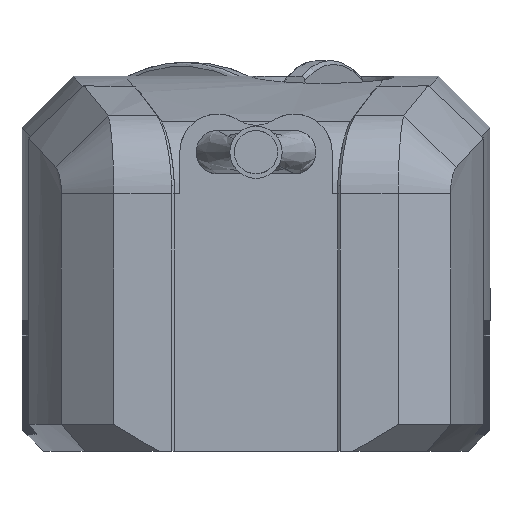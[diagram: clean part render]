
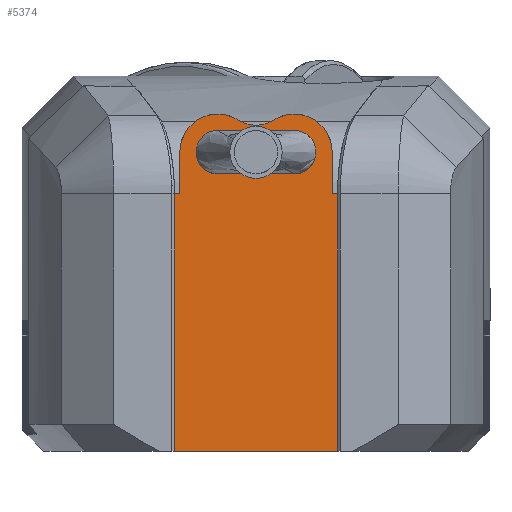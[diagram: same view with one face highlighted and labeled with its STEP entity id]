
A CAD part, front view. The second image highlights one B-rep face of the part: STEP entity #5374.
In plain terms, the highlighted planar face has unit normal (0, -1, 0).
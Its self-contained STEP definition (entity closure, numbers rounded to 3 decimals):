
#72 = VECTOR ( 'NONE', #2288, 1000. ) ;
#159 = ORIENTED_EDGE ( 'NONE', *, *, #5967, .F. ) ;
#255 = VECTOR ( 'NONE', #13931, 1000. ) ;
#313 = VERTEX_POINT ( 'NONE', #9324 ) ;
#504 = CARTESIAN_POINT ( 'NONE',  ( 44., -64., 0. ) ) ;
#577 = CARTESIAN_POINT ( 'NONE',  ( 7., -64., 55. ) ) ;
#873 = CARTESIAN_POINT ( 'NONE',  ( 14., -64., 47.341 ) ) ;
#914 = CARTESIAN_POINT ( 'NONE',  ( -14., -64., 55. ) ) ;
#1055 = CARTESIAN_POINT ( 'NONE',  ( -44., -64., 47.341 ) ) ;
#1127 = CIRCLE ( 'NONE', #11128, 7. ) ;
#1200 = LINE ( 'NONE', #1055, #15315 ) ;
#1284 = CIRCLE ( 'NONE', #12761, 5.95 ) ;
#1679 = DIRECTION ( 'NONE',  ( 0., 1., 0. ) ) ;
#1739 = EDGE_CURVE ( 'NONE', #5245, #9211, #17204, .T. ) ;
#1965 = VERTEX_POINT ( 'NONE', #2153 ) ;
#2153 = CARTESIAN_POINT ( 'NONE',  ( -3.216, -64., 60.889 ) ) ;
#2288 = DIRECTION ( 'NONE',  ( 0., 0., 1. ) ) ;
#2375 = DIRECTION ( 'NONE',  ( 1., 0., 0. ) ) ;
#2645 = DIRECTION ( 'NONE',  ( 0., 0., -1. ) ) ;
#3343 = DIRECTION ( 'NONE',  ( 0., -1., 0. ) ) ;
#3376 = EDGE_CURVE ( 'NONE', #313, #17837, #1127, .T. ) ;
#3404 = EDGE_CURVE ( 'NONE', #16230, #11244, #15020, .T. ) ;
#3432 = CARTESIAN_POINT ( 'NONE',  ( -15., -64., 47.341 ) ) ;
#3497 = CARTESIAN_POINT ( 'NONE',  ( 7., -64., 62. ) ) ;
#3565 = EDGE_CURVE ( 'NONE', #8773, #8320, #16331, .T. ) ;
#3675 = FACE_OUTER_BOUND ( 'NONE', #9841, .T. ) ;
#3718 = DIRECTION ( 'NONE',  ( 0., 1., 0. ) ) ;
#3763 = CIRCLE ( 'NONE', #11531, 7. ) ;
#3791 = CARTESIAN_POINT ( 'NONE',  ( -7., -64., 55. ) ) ;
#3796 = LINE ( 'NONE', #7617, #16617 ) ;
#3968 = DIRECTION ( 'NONE',  ( 0., -1., 0. ) ) ;
#4394 = EDGE_CURVE ( 'NONE', #8320, #8773, #10463, .T. ) ;
#4854 = ORIENTED_EDGE ( 'NONE', *, *, #3565, .F. ) ;
#4988 = CARTESIAN_POINT ( 'NONE',  ( 7., -64., 55. ) ) ;
#5052 = VERTEX_POINT ( 'NONE', #17005 ) ;
#5104 = ORIENTED_EDGE ( 'NONE', *, *, #6723, .T. ) ;
#5207 = CARTESIAN_POINT ( 'NONE',  ( -7., -64., 55. ) ) ;
#5245 = VERTEX_POINT ( 'NONE', #13244 ) ;
#5374 = ADVANCED_FACE ( 'NONE', ( #3675, #17602, #18037 ), #7004, .F. ) ;
#5431 = DIRECTION ( 'NONE',  ( 0., 0., -1. ) ) ;
#5503 = ORIENTED_EDGE ( 'NONE', *, *, #16062, .T. ) ;
#5620 = ORIENTED_EDGE ( 'NONE', *, *, #3404, .F. ) ;
#5784 = DIRECTION ( 'NONE',  ( 0., 0., -1. ) ) ;
#5850 = CARTESIAN_POINT ( 'NONE',  ( 7., -64., 55. ) ) ;
#5934 = ORIENTED_EDGE ( 'NONE', *, *, #7829, .F. ) ;
#5967 = EDGE_CURVE ( 'NONE', #1965, #5052, #1284, .T. ) ;
#6186 = DIRECTION ( 'NONE',  ( 0., 0., -1. ) ) ;
#6211 = CARTESIAN_POINT ( 'NONE',  ( -15., -64., 0. ) ) ;
#6338 = CARTESIAN_POINT ( 'NONE',  ( -15., -64., 70. ) ) ;
#6617 = CARTESIAN_POINT ( 'NONE',  ( 14., -64., 55. ) ) ;
#6723 = EDGE_CURVE ( 'NONE', #14572, #11244, #11662, .T. ) ;
#6885 = ORIENTED_EDGE ( 'NONE', *, *, #7992, .T. ) ;
#6972 = LINE ( 'NONE', #6338, #12420 ) ;
#7004 = PLANE ( 'NONE',  #16936 ) ;
#7056 = CARTESIAN_POINT ( 'NONE',  ( -7., -64., 59. ) ) ;
#7193 = DIRECTION ( 'NONE',  ( 0., 0., 1. ) ) ;
#7305 = AXIS2_PLACEMENT_3D ( 'NONE', #9312, #3718, #10736 ) ;
#7337 = ORIENTED_EDGE ( 'NONE', *, *, #10829, .T. ) ;
#7617 = CARTESIAN_POINT ( 'NONE',  ( 44., -64., 47.341 ) ) ;
#7717 = CIRCLE ( 'NONE', #16271, 4. ) ;
#7829 = EDGE_CURVE ( 'NONE', #14131, #16230, #1200, .T. ) ;
#7885 = ORIENTED_EDGE ( 'NONE', *, *, #3376, .F. ) ;
#7974 = DIRECTION ( 'NONE',  ( 0., 1., 0. ) ) ;
#7992 = EDGE_CURVE ( 'NONE', #9211, #5245, #7717, .T. ) ;
#8181 = DIRECTION ( 'NONE',  ( 0., 1., 0. ) ) ;
#8320 = VERTEX_POINT ( 'NONE', #13357 ) ;
#8376 = DIRECTION ( 'NONE',  ( 0., 0., -1. ) ) ;
#8525 = ORIENTED_EDGE ( 'NONE', *, *, #1739, .T. ) ;
#8553 = EDGE_CURVE ( 'NONE', #17349, #13247, #8803, .T. ) ;
#8773 = VERTEX_POINT ( 'NONE', #10445 ) ;
#8803 = CIRCLE ( 'NONE', #11521, 7. ) ;
#9211 = VERTEX_POINT ( 'NONE', #7056 ) ;
#9312 = CARTESIAN_POINT ( 'NONE',  ( -7., -64., 55. ) ) ;
#9324 = CARTESIAN_POINT ( 'NONE',  ( -14., -64., 55. ) ) ;
#9679 = VECTOR ( 'NONE', #14520, 1000. ) ;
#9841 = EDGE_LOOP ( 'NONE', ( #5104, #5620, #5934, #7337, #15375, #5503, #159, #13626, #7885, #12933, #12488, #12735 ) ) ;
#10006 = CARTESIAN_POINT ( 'NONE',  ( 44., -64., 70. ) ) ;
#10445 = CARTESIAN_POINT ( 'NONE',  ( 7., -64., 51. ) ) ;
#10463 = CIRCLE ( 'NONE', #11946, 4. ) ;
#10537 = AXIS2_PLACEMENT_3D ( 'NONE', #577, #3343, #6186 ) ;
#10555 = CIRCLE ( 'NONE', #7305, 7. ) ;
#10736 = DIRECTION ( 'NONE',  ( 0., 0., -1. ) ) ;
#10829 = EDGE_CURVE ( 'NONE', #14131, #17349, #16938, .T. ) ;
#10966 = DIRECTION ( 'NONE',  ( 0., 0., -1. ) ) ;
#11098 = DIRECTION ( 'NONE',  ( 0., 1., 0. ) ) ;
#11123 = CARTESIAN_POINT ( 'NONE',  ( 15., -64., 0. ) ) ;
#11128 = AXIS2_PLACEMENT_3D ( 'NONE', #5207, #11098, #8376 ) ;
#11244 = VERTEX_POINT ( 'NONE', #11123 ) ;
#11448 = CARTESIAN_POINT ( 'NONE',  ( -14., -64., 47.341 ) ) ;
#11521 = AXIS2_PLACEMENT_3D ( 'NONE', #13885, #3968, #2645 ) ;
#11531 = AXIS2_PLACEMENT_3D ( 'NONE', #5850, #16862, #5784 ) ;
#11662 = LINE ( 'NONE', #504, #9679 ) ;
#11946 = AXIS2_PLACEMENT_3D ( 'NONE', #4988, #13392, #17420 ) ;
#12221 = DIRECTION ( 'NONE',  ( 0., 0., 1. ) ) ;
#12420 = VECTOR ( 'NONE', #13403, 1000. ) ;
#12488 = ORIENTED_EDGE ( 'NONE', *, *, #15169, .T. ) ;
#12517 = DIRECTION ( 'NONE',  ( 0., -1., 0. ) ) ;
#12599 = VERTEX_POINT ( 'NONE', #11448 ) ;
#12735 = ORIENTED_EDGE ( 'NONE', *, *, #17624, .T. ) ;
#12761 = AXIS2_PLACEMENT_3D ( 'NONE', #18005, #12517, #10966 ) ;
#12785 = EDGE_LOOP ( 'NONE', ( #14175, #4854 ) ) ;
#12933 = ORIENTED_EDGE ( 'NONE', *, *, #15766, .F. ) ;
#13159 = DIRECTION ( 'NONE',  ( -1., 0., 0. ) ) ;
#13244 = CARTESIAN_POINT ( 'NONE',  ( -7., -64., 51. ) ) ;
#13247 = VERTEX_POINT ( 'NONE', #3497 ) ;
#13357 = CARTESIAN_POINT ( 'NONE',  ( 7., -64., 59. ) ) ;
#13392 = DIRECTION ( 'NONE',  ( 0., -1., 0. ) ) ;
#13403 = DIRECTION ( 'NONE',  ( 0., 0., -1. ) ) ;
#13461 = CARTESIAN_POINT ( 'NONE',  ( 15., -64., 47.341 ) ) ;
#13527 = DIRECTION ( 'NONE',  ( 0., 0., -1. ) ) ;
#13626 = ORIENTED_EDGE ( 'NONE', *, *, #15192, .F. ) ;
#13682 = VECTOR ( 'NONE', #12221, 1000. ) ;
#13885 = CARTESIAN_POINT ( 'NONE',  ( 7., -64., 55. ) ) ;
#13931 = DIRECTION ( 'NONE',  ( 0., 0., -1. ) ) ;
#14131 = VERTEX_POINT ( 'NONE', #873 ) ;
#14175 = ORIENTED_EDGE ( 'NONE', *, *, #4394, .F. ) ;
#14467 = AXIS2_PLACEMENT_3D ( 'NONE', #3791, #7974, #13527 ) ;
#14520 = DIRECTION ( 'NONE',  ( 1., 0., 0. ) ) ;
#14572 = VERTEX_POINT ( 'NONE', #6211 ) ;
#15020 = LINE ( 'NONE', #17644, #255 ) ;
#15148 = VERTEX_POINT ( 'NONE', #3432 ) ;
#15169 = EDGE_CURVE ( 'NONE', #12599, #15148, #3796, .T. ) ;
#15192 = EDGE_CURVE ( 'NONE', #17837, #1965, #10555, .T. ) ;
#15242 = CARTESIAN_POINT ( 'NONE',  ( -7., -64., 55. ) ) ;
#15315 = VECTOR ( 'NONE', #2375, 1000. ) ;
#15375 = ORIENTED_EDGE ( 'NONE', *, *, #8553, .T. ) ;
#15766 = EDGE_CURVE ( 'NONE', #12599, #313, #16594, .T. ) ;
#16062 = EDGE_CURVE ( 'NONE', #13247, #5052, #3763, .T. ) ;
#16230 = VERTEX_POINT ( 'NONE', #13461 ) ;
#16271 = AXIS2_PLACEMENT_3D ( 'NONE', #15242, #8181, #5431 ) ;
#16331 = CIRCLE ( 'NONE', #10537, 4. ) ;
#16594 = LINE ( 'NONE', #914, #72 ) ;
#16617 = VECTOR ( 'NONE', #13159, 1000. ) ;
#16862 = DIRECTION ( 'NONE',  ( 0., -1., 0. ) ) ;
#16936 = AXIS2_PLACEMENT_3D ( 'NONE', #10006, #1679, #7193 ) ;
#16938 = LINE ( 'NONE', #6617, #13682 ) ;
#17005 = CARTESIAN_POINT ( 'NONE',  ( 3.216, -64., 60.889 ) ) ;
#17204 = CIRCLE ( 'NONE', #14467, 4. ) ;
#17349 = VERTEX_POINT ( 'NONE', #17800 ) ;
#17420 = DIRECTION ( 'NONE',  ( 0., 0., -1. ) ) ;
#17602 = FACE_BOUND ( 'NONE', #17966, .T. ) ;
#17624 = EDGE_CURVE ( 'NONE', #15148, #14572, #6972, .T. ) ;
#17644 = CARTESIAN_POINT ( 'NONE',  ( 15., -64., 70. ) ) ;
#17753 = CARTESIAN_POINT ( 'NONE',  ( -7., -64., 62. ) ) ;
#17800 = CARTESIAN_POINT ( 'NONE',  ( 14., -64., 55. ) ) ;
#17837 = VERTEX_POINT ( 'NONE', #17753 ) ;
#17966 = EDGE_LOOP ( 'NONE', ( #6885, #8525 ) ) ;
#18005 = CARTESIAN_POINT ( 'NONE',  ( 0., -64., 65.895 ) ) ;
#18037 = FACE_BOUND ( 'NONE', #12785, .T. ) ;
